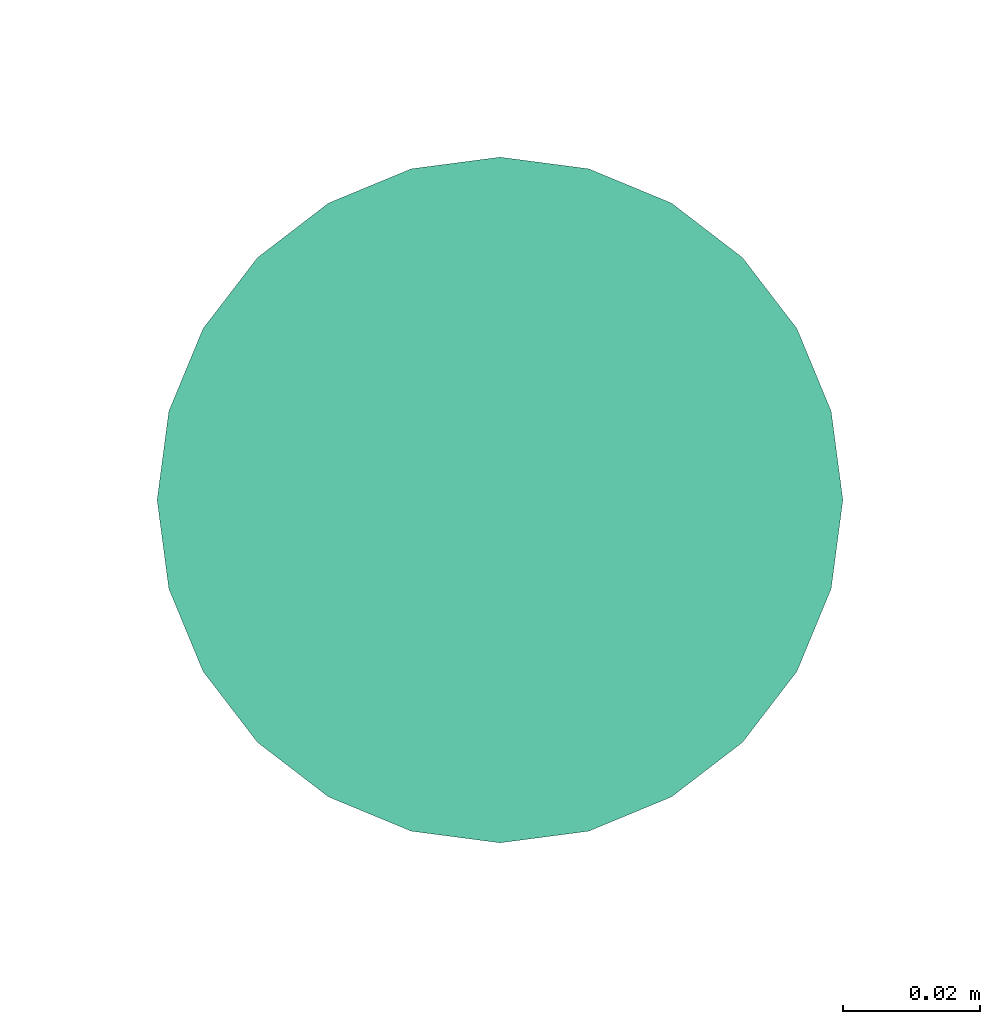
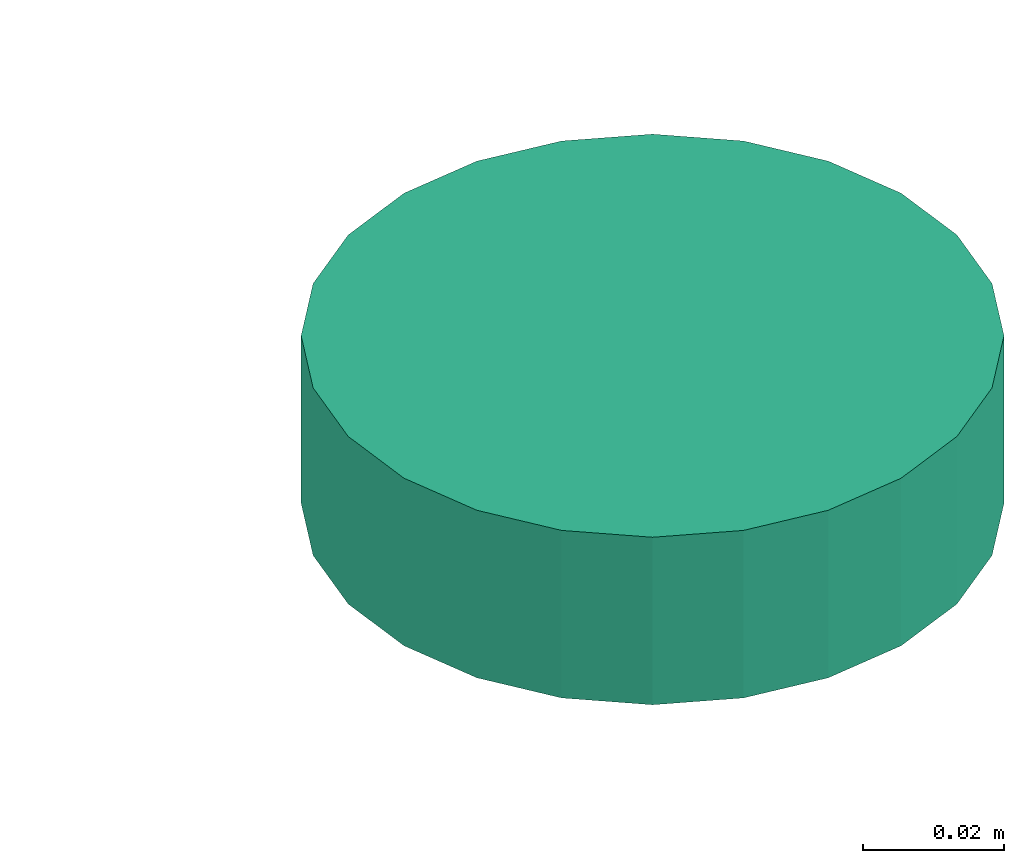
# One storey, part 6 of 7: 1 distribution control element.
"""IFC2X3 building model written with IfcOpenShell, lengths in millimetres."""

from ifc_helpers import new_model, entity, si_unit, converted_unit, derived_unit, direction, frame, origin_with_axes, place, context, subcontext, project, spatial, open_shell, surface_model, source, transform, mapped, type_object, element, save


model = new_model("IFC2X3")

# Units and contexts
model_context = context("Model", 3, precision=0.01, world=frame((0.0, 4.29681676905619e-09, 0.0)), true_north=direction((4.01073788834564e-13, 1.0)))
plan_context = context("Plan", 3, precision=0.01, world=frame((0.0, 4.29681676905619e-09, 0.0)), true_north=direction((4.01073788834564e-13, 1.0)))
body_context = subcontext(model_context, "Body", "Model", "MODEL_VIEW")
ifc_project = project(units=[converted_unit("PLANEANGLEUNIT", "DEGREE", entity("IfcPositiveLengthMeasure", 0.0174532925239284), si_unit("PLANEANGLEUNIT", "RADIAN"), dimensions=[0, 0, 0, 0, 0, 0, 0]), si_unit("AREAUNIT", "SQUARE_METRE"), si_unit("LENGTHUNIT", "METRE", prefix="MILLI"), si_unit("MASSUNIT", "GRAM", prefix="KILO"), si_unit("POWERUNIT", "WATT"), si_unit("PRESSUREUNIT", "PASCAL"), si_unit("FORCEUNIT", "NEWTON", prefix="KILO"), si_unit("ELECTRICVOLTAGEUNIT", "VOLT"), si_unit("ELECTRICCURRENTUNIT", "AMPERE"), si_unit("THERMODYNAMICTEMPERATUREUNIT", "DEGREE_CELSIUS"), si_unit("TIMEUNIT", "SECOND"), si_unit("VOLUMEUNIT", "CUBIC_METRE"), derived_unit("LINEARVELOCITYUNIT", [(si_unit("LENGTHUNIT", "METRE"), 1), (si_unit("TIMEUNIT", "SECOND"), -1)]), derived_unit("VOLUMETRICFLOWRATEUNIT", [(si_unit("VOLUMEUNIT", "CUBIC_METRE"), 1), (si_unit("TIMEUNIT", "SECOND"), -1)]), derived_unit("THERMALTRANSMITTANCEUNIT", [(si_unit("POWERUNIT", "WATT"), 1), (si_unit("THERMODYNAMICTEMPERATUREUNIT", "KELVIN"), -1), (si_unit("AREAUNIT", "SQUARE_METRE"), -1)]), derived_unit("SOUNDPRESSUREUNIT", [(si_unit("PRESSUREUNIT", "PASCAL"), 1)])], contexts=[model_context, plan_context])

# Site, building, storey
site_placement = place(None, frame((0.0, -4.29681676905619e-09, 0.0), z_axis=(0.0, 0.0, 1.0), x_axis=(1.0, 0.0, 0.0)))
site = spatial("IfcSite", under=ifc_project, at=site_placement, Name="ENGM", CompositionType="ELEMENT")
building_placement = place(site_placement, frame((0.0, 4.29681676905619e-09, 0.0), z_axis=(0.0, 0.0, 1.0), x_axis=(1.0, 0.0, 0.0)))
building = spatial("IfcBuilding", under=site, at=building_placement, Name="TH", CompositionType="ELEMENT")
storey_placement = place(building_placement, frame((0.0, 0.0, 210900.0), z_axis=(0.0, 0.0, 1.0), x_axis=(1.0, 0.0, 0.0)))
storey = spatial("IfcBuildingStorey", under=building, at=storey_placement, Name="Nivå F", CompositionType="ELEMENT", Elevation=210900.0)

# Distribution control element
alarm_type = type_object("IfcAlarmType", Name="Optisk Røykdetektor", PredefinedType="NOTDEFINED")
shared_shape = source(origin_with_axes(), body_context, "Body", "SurfaceModel", [
    surface_model("IfcShellBasedSurfaceModel", [(-25.0, 43.30127, -28.9), (-35.35534, 35.35534, -28.9), (-18.0, 31.17691, -28.9), (-25.45584, 25.45584, -28.9), (-9.31749, 34.77333, -28.9), (-12.94095, 48.29629, -28.9), (0.0, 36.0, -28.9), (0.0, 50.0, -28.9), (-34.77333, 9.31749, -28.9), (-43.30127, 25.0, -28.9), (-48.29629, 12.94095, -28.9), (-36.0, 0.0, -28.9), (-50.0, 0.0, -28.9), (-31.17691, 18.0, -28.9), (9.31749, 34.77333, -28.9), (12.94095, 48.29629, -28.9), (18.0, 31.17691, -28.9), (35.35534, 35.35534, -28.9), (25.0, 43.30127, -28.9), (25.45584, 25.45584, -28.9), (31.17691, 18.0, -28.9), (34.77333, 9.31749, -28.9), (43.30127, 25.0, -28.9), (48.29629, 12.94095, -28.9), (36.0, 0.0, -28.9), (50.0, 0.0, -28.9), (-34.77333, -9.31749, -28.9), (-48.29629, -12.94095, -28.9), (-31.17691, -18.0, -28.9), (-43.30127, -25.0, -28.9), (-25.45584, -25.45584, -28.9), (-35.35534, -35.35534, -28.9), (-18.0, -31.17691, -28.9), (-25.0, -43.30127, -28.9), (-9.31749, -34.77333, -28.9), (-12.94095, -48.29629, -28.9), (0.0, -36.0, -28.9), (0.0, -50.0, -28.9), (43.30127, -25.0, -28.9), (31.17691, -18.0, -28.9), (35.35534, -35.35534, -28.9), (34.77333, -9.31749, -28.9), (48.29629, -12.94095, -28.9), (25.45584, -25.45584, -28.9), (9.31749, -34.77333, -28.9), (12.94095, -48.29629, -28.9), (18.0, -31.17691, -28.9), (25.0, -43.30127, -28.9), (-25.0, -43.30127, -29.1), (-35.35534, -35.35534, -29.1), (-18.0, -31.17691, -29.1), (-25.45584, -25.45584, -29.1), (-9.31749, -34.77333, -29.1), (-12.94095, -48.29629, -29.1), (0.0, -36.0, -29.1), (0.0, -50.0, -29.1), (-34.77333, -9.31749, -29.1), (-43.30127, -25.0, -29.1), (-48.29629, -12.94095, -29.1), (-36.0, 0.0, -29.1), (-50.0, 0.0, -29.1), (-31.17691, -18.0, -29.1), (9.31749, -34.77333, -29.1), (12.94095, -48.29629, -29.1), (18.0, -31.17691, -29.1), (35.35534, -35.35534, -29.1), (25.0, -43.30127, -29.1), (25.45584, -25.45584, -29.1), (31.17691, -18.0, -29.1), (34.77333, -9.31749, -29.1), (43.30127, -25.0, -29.1), (48.29629, -12.94095, -29.1), (36.0, 0.0, -29.1), (50.0, 0.0, -29.1), (-34.77333, 9.31749, -29.1), (-48.29629, 12.94095, -29.1), (-31.17691, 18.0, -29.1), (-43.30127, 25.0, -29.1), (-25.45584, 25.45584, -29.1), (-35.35534, 35.35534, -29.1), (-18.0, 31.17691, -29.1), (-25.0, 43.30127, -29.1), (-9.31749, 34.77333, -29.1), (-12.94095, 48.29629, -29.1), (0.0, 36.0, -29.1), (0.0, 50.0, -29.1), (43.30127, 25.0, -29.1), (31.17691, 18.0, -29.1), (35.35534, 35.35534, -29.1), (34.77333, 9.31749, -29.1), (48.29629, 12.94095, -29.1), (25.45584, 25.45584, -29.1), (9.31749, 34.77333, -29.1), (12.94095, 48.29629, -29.1), (18.0, 31.17691, -29.1), (25.0, 43.30127, -29.1), (6.47048, -24.14815, -44.9), (12.5, -21.65064, -44.9), (17.67767, -17.67767, -44.9), (24.14815, -6.47048, -44.9), (-24.14815, -6.47048, -44.9), (21.65064, -12.5, -44.9), (-21.65064, 12.5, -44.9), (0.0, -25.0, -44.9), (-12.5, -21.65064, -44.9), (-6.47048, -24.14815, -44.9), (-17.67767, -17.67767, -44.9), (-21.65064, -12.5, -44.9), (25.0, 0.0, -44.9), (24.14815, 6.47048, -44.9), (21.65064, 12.5, -44.9), (17.67767, 17.67767, -44.9), (12.5, 21.65064, -44.9), (6.47048, 24.14815, -44.9), (0.0, 25.0, -44.9), (-25.0, 0.0, -44.9), (-24.14815, 6.47048, -44.9), (-12.5, 21.65064, -44.9), (-17.67767, 17.67767, -44.9), (-6.47048, 24.14815, -44.9), (0.0, 25.0, -45.1), (6.47048, 24.14815, -45.1), (12.5, 21.65064, -45.1), (-21.65064, 12.5, -45.1), (17.67767, 17.67767, -45.1), (21.65064, 12.5, -45.1), (24.14815, 6.47048, -45.1), (-12.5, 21.65064, -45.1), (-17.67767, 17.67767, -45.1), (-6.47048, 24.14815, -45.1), (-25.0, 0.0, -45.1), (-24.14815, 6.47048, -45.1), (-24.14815, -6.47048, -45.1), (24.14815, -6.47048, -45.1), (6.47048, -24.14815, -45.1), (21.65064, -12.5, -45.1), (17.67767, -17.67767, -45.1), (12.5, -21.65064, -45.1), (-12.5, -21.65064, -45.1), (-17.67767, -17.67767, -45.1), (-21.65064, -12.5, -45.1), (0.0, -25.0, -45.1), (-6.47048, -24.14815, -45.1), (25.0, 0.0, -45.1), (-1.46739, 34.60682, -29.0), (0.0, 34.8, -29.0), (0.0, 35.0, -29.0), (-34.60682, 1.46739, -29.0), (-35.0, 0.0, -29.0), (-34.8, 0.0, -29.0), (-17.5, 30.31089, -29.0), (-18.5742, 29.23669, -29.0), (-17.4, 30.13768, -29.0), (-24.60732, -24.60732, -29.0), (-18.5742, -29.23669, -29.0), (-29.23669, -18.5742, -29.0), (34.8, 0.0, -29.0), (34.60682, -1.46739, -29.0), (35.0, 0.0, -29.0), (17.4, 30.13768, -29.0), (17.5, 30.31089, -29.0), (16.03261, 30.70407, -29.0), (30.13768, 17.4, -29.0), (30.31089, 17.5, -29.0), (29.23669, 18.5742, -29.0), (34.60682, 1.46739, -29.0), (33.61422, -9.0069, -29.0), (30.70407, -16.03261, -29.0), (-33.61422, -9.0069, -29.0), (-30.70407, -16.03261, -29.0), (-34.60682, -1.46739, -29.0), (-30.13768, -17.4, -29.0), (-30.31089, -17.5, -29.0), (-17.5, -30.31089, -29.0), (-17.4, -30.13768, -29.0), (-1.46739, -34.60682, -29.0), (0.0, -35.0, -29.0), (0.0, -34.8, -29.0), (-16.03261, -30.70407, -29.0), (-9.0069, -33.61422, -29.0), (1.46739, -34.60682, -29.0), (30.13768, -17.4, -29.0), (29.23669, -18.5742, -29.0), (30.31089, -17.5, -29.0), (24.60732, -24.60732, -29.0), (18.5742, -29.23669, -29.0), (9.0069, -33.61422, -29.0), (16.03261, -30.70407, -29.0), (-30.13768, 17.4, -29.0), (-30.31089, 17.5, -29.0), (-30.70407, 16.03261, -29.0), (17.4, -30.13768, -29.0), (17.5, -30.31089, -29.0), (-33.61422, 9.0069, -29.0), (-29.23669, 18.5742, -29.0), (-24.60732, 24.60732, -29.0), (-16.03261, 30.70407, -29.0), (-9.0069, 33.61422, -29.0), (1.46739, 34.60682, -29.0), (9.0069, 33.61422, -29.0), (18.5742, 29.23669, -29.0), (24.60732, 24.60732, -29.0), (30.70407, 16.03261, -29.0), (33.61422, 9.0069, -29.0), (23.00389, 18.55381, -38.25), (14.9, 25.80756, -38.25), (21.07178, 21.07178, -38.25), (29.66376, 1.03484, -38.25), (30.0, 0.0, -38.25), (29.8, 0.0, -38.25), (24.27051, 17.63356, -38.25), (24.68215, 16.36666, -38.25), (10.52665, 27.61906, -38.25), (28.78459, 7.71281, -38.25), (-10.52665, 27.61906, -38.25), (-23.00389, 18.55381, -38.25), (-14.9, 25.80756, -38.25), (8.32335, 28.5317, -38.25), (0.0, 29.8, -38.25), (7.71281, 28.78459, -38.25), (-8.32335, 28.5317, -38.25), (-24.68215, 16.36666, -38.25), (-28.78459, 7.71281, -38.25), (-25.80756, 14.9, -38.25), (-9.27051, 28.5317, -38.25), (-29.66376, 1.03484, -38.25), (-29.8, 0.0, -38.25), (-30.0, 0.0, -38.25), (-28.78459, -7.71281, -38.25), (-24.68215, -16.36666, -38.25), (-25.80756, -14.9, -38.25), (29.66376, -1.03484, -38.25), (-7.71281, 28.78459, -38.25), (25.80756, 14.9, -38.25), (14.9, -25.80756, -38.25), (10.52665, -27.61906, -38.25), (23.00389, -18.55381, -38.25), (28.78459, -7.71281, -38.25), (24.68215, -16.36666, -38.25), (0.0, -29.8, -38.25), (-7.71281, -28.78459, -38.25), (-8.32335, -28.5317, -38.25), (8.32335, -28.5317, -38.25), (9.27051, 28.5317, -38.25), (-29.66376, -1.03484, -38.25), (21.07178, -21.07178, -38.25), (-23.00389, -18.55381, -38.25), (-24.27051, -17.63356, -38.25), (-9.27051, -28.5317, -38.25), (-10.52665, -27.61906, -38.25), (-21.07178, -21.07178, -38.25), (-14.9, -25.80756, -38.25), (9.27051, -28.5317, -38.25), (7.71281, -28.78459, -38.25), (24.27051, -17.63356, -38.25), (25.80756, -14.9, -38.25), (-21.07178, 21.07178, -38.25), (-24.27051, 17.63356, -38.25), (33.28589, -6.39713, -29.0), (27.13526, -8.81678, -38.25), (-16.77051, -23.08263, -38.25), (-23.90544, -23.90544, -29.0), (-27.13526, -8.81678, -38.25), (-33.28589, -6.39713, -29.0), (16.77051, -23.08263, -38.25), (8.75, -32.65544, -29.0), (0.0, -28.5317, -38.25), (23.90544, -23.90544, -29.0), (-8.75, -32.65544, -29.0), (-33.28589, 6.39713, -29.0), (-27.13526, 8.81678, -38.25), (16.77051, 23.08263, -38.25), (23.90544, 23.90544, -29.0), (27.13526, 8.81678, -38.25), (33.28589, 6.39713, -29.0), (-16.77051, 23.08263, -38.25), (-8.75, 32.65544, -29.0), (0.0, 28.5317, -38.25), (-23.90544, 23.90544, -29.0), (8.75, 32.65544, -29.0), (12.4, 21.47743, -45.0), (17.53625, 17.53625, -45.0), (19.07577, 15.5299, -45.0), (20.22543, 14.69463, -45.0), (20.59905, 13.54472, -45.0), (24.66376, 1.03484, -45.0), (25.0, 0.0, -45.0), (24.8, 0.0, -45.0), (8.88673, 22.93267, -45.0), (23.95496, 6.41871, -45.0), (-8.88673, 22.93267, -45.0), (-19.07577, 15.5299, -45.0), (-12.4, 21.47743, -45.0), (6.84976, 23.77641, -45.0), (0.0, 24.8, -45.0), (6.41871, 23.95496, -45.0), (-7.72542, 23.77641, -45.0), (-6.84976, 23.77641, -45.0), (-21.47743, 12.4, -45.0), (-20.59905, 13.54472, -45.0), (-23.95496, 6.41871, -45.0), (-25.0, 0.0, -45.0), (-24.66376, 1.03484, -45.0), (-24.8, 0.0, -45.0), (-23.95496, -6.41871, -45.0), (-20.59905, -13.54472, -45.0), (-21.47743, -12.4, -45.0), (-6.41871, 23.95496, -45.0), (24.66376, -1.03484, -45.0), (21.47743, 12.4, -45.0), (12.4, -21.47743, -45.0), (8.88673, -22.93267, -45.0), (19.07577, -15.5299, -45.0), (23.95496, -6.41871, -45.0), (20.59905, -13.54472, -45.0), (0.0, -24.8, -45.0), (-6.41871, -23.95496, -45.0), (-6.84976, -23.77641, -45.0), (7.72542, -23.77641, -45.0), (6.84976, -23.77641, -45.0), (7.72542, 23.77641, -45.0), (-24.66376, -1.03484, -45.0), (17.53625, -17.53625, -45.0), (-20.22543, -14.69463, -45.0), (-19.07577, -15.5299, -45.0), (-8.88673, -22.93267, -45.0), (-7.72542, -23.77641, -45.0), (-17.53625, -17.53625, -45.0), (-12.4, -21.47743, -45.0), (6.41871, -23.95496, -45.0), (20.22543, -14.69463, -45.0), (21.47743, -12.4, -45.0), (-17.53625, 17.53625, -45.0), (-20.22543, 14.69463, -45.0), (-22.61271, -7.34732, -45.0), (-13.97542, -19.23552, -45.0), (0.0, -23.77641, -45.0), (21.83768, -9.73262, -45.0), (13.97542, -19.23552, -45.0), (23.41884, -4.86631, -45.0), (22.61271, 7.34732, -45.0), (13.97542, 19.23552, -45.0), (0.0, 23.77641, -45.0), (-21.83768, 9.73262, -45.0), (-13.97542, 19.23552, -45.0), (-23.41884, 4.86631, -45.0), (12.94095, -48.29629, 0.0), (25.0, -43.30127, 0.0), (35.35534, -35.35534, 0.0), (48.29629, -12.94095, 0.0), (-48.29629, -12.94095, 0.0), (43.30127, -25.0, 0.0), (-43.30127, 25.0, 0.0), (0.0, -50.0, 0.0), (-25.0, -43.30127, 0.0), (-12.94095, -48.29629, 0.0), (-35.35534, -35.35534, 0.0), (-43.30127, -25.0, 0.0), (50.0, 0.0, 0.0), (48.29629, 12.94095, 0.0), (43.30127, 25.0, 0.0), (35.35534, 35.35534, 0.0), (25.0, 43.30127, 0.0), (12.94095, 48.29629, 0.0), (0.0, 50.0, 0.0), (-50.0, 0.0, 0.0), (-48.29629, 12.94095, 0.0), (-25.0, 43.30127, 0.0), (-35.35534, 35.35534, 0.0), (-12.94095, 48.29629, 0.0), (0.0, 50.0, -29.0), (12.94095, 48.29629, -29.0), (25.0, 43.30127, -29.0), (-43.30127, 25.0, -29.0), (35.35534, 35.35534, -29.0), (43.30127, 25.0, -29.0), (48.29629, 12.94095, -29.0), (-25.0, 43.30127, -29.0), (-35.35534, 35.35534, -29.0), (-12.94095, 48.29629, -29.0), (-50.0, 0.0, -29.0), (-48.29629, 12.94095, -29.0), (-48.29629, -12.94095, -29.0), (48.29629, -12.94095, -29.0), (12.94095, -48.29629, -29.0), (43.30127, -25.0, -29.0), (35.35534, -35.35534, -29.0), (25.0, -43.30127, -29.0), (-25.0, -43.30127, -29.0), (-35.35534, -35.35534, -29.0), (-43.30127, -25.0, -29.0), (0.0, -50.0, -29.0), (-12.94095, -48.29629, -29.0), (50.0, 0.0, -29.0)], [open_shell([[[0, 1, 2]], [[2, 1, 3]], [[0, 2, 4]], [[5, 4, 6]], [[4, 5, 0]], [[5, 6, 7]], [[8, 9, 10]], [[11, 10, 12]], [[8, 10, 11]], [[13, 3, 9]], [[8, 13, 9]], [[9, 3, 1]], [[7, 14, 15]], [[14, 7, 6]], [[15, 14, 16]], [[17, 18, 19]], [[16, 18, 15]], [[19, 18, 16]], [[20, 21, 22]], [[20, 22, 17]], [[21, 23, 22]], [[23, 21, 24]], [[23, 24, 25]], [[20, 17, 19]], [[26, 12, 27]], [[28, 27, 29]], [[28, 26, 27]], [[30, 28, 29]], [[29, 31, 30]], [[32, 31, 33]], [[31, 32, 30]], [[32, 33, 34]], [[34, 35, 36]], [[35, 34, 33]], [[36, 35, 37]], [[38, 39, 40]], [[41, 39, 42]], [[41, 42, 25]], [[42, 39, 38]], [[39, 43, 40]], [[25, 24, 41]], [[44, 37, 45]], [[37, 44, 36]], [[44, 45, 46]], [[47, 40, 43]], [[47, 46, 45]], [[47, 43, 46]], [[26, 11, 12]], [[48, 49, 50]], [[50, 49, 51]], [[48, 50, 52]], [[53, 52, 54]], [[52, 53, 48]], [[53, 54, 55]], [[56, 57, 58]], [[59, 58, 60]], [[56, 58, 59]], [[61, 51, 57]], [[56, 61, 57]], [[57, 51, 49]], [[55, 62, 63]], [[62, 55, 54]], [[63, 62, 64]], [[65, 66, 67]], [[64, 66, 63]], [[67, 66, 64]], [[68, 69, 70]], [[68, 70, 65]], [[69, 71, 70]], [[71, 69, 72]], [[71, 72, 73]], [[68, 65, 67]], [[74, 60, 75]], [[76, 75, 77]], [[76, 74, 75]], [[78, 76, 77]], [[77, 79, 78]], [[80, 79, 81]], [[79, 80, 78]], [[80, 81, 82]], [[82, 83, 84]], [[83, 82, 81]], [[84, 83, 85]], [[86, 87, 88]], [[89, 87, 90]], [[89, 90, 73]], [[90, 87, 86]], [[87, 91, 88]], [[73, 72, 89]], [[92, 85, 93]], [[85, 92, 84]], [[92, 93, 94]], [[95, 88, 91]], [[95, 94, 93]], [[95, 91, 94]], [[74, 59, 60]], [[11, 59, 8]], [[8, 74, 13]], [[2, 3, 78]], [[76, 3, 13]], [[4, 2, 80]], [[74, 76, 13]], [[8, 59, 74]], [[84, 6, 82]], [[4, 80, 82]], [[80, 2, 78]], [[3, 76, 78]], [[4, 82, 6]], [[14, 92, 16]], [[16, 94, 19]], [[21, 20, 87]], [[91, 20, 19]], [[24, 21, 89]], [[92, 94, 16]], [[14, 84, 92]], [[21, 87, 89]], [[87, 20, 91]], [[19, 94, 91]], [[24, 89, 72]], [[6, 84, 14]], [[24, 72, 41]], [[41, 69, 39]], [[46, 43, 67]], [[68, 43, 39]], [[44, 46, 64]], [[69, 68, 39]], [[41, 72, 69]], [[54, 36, 62]], [[44, 64, 62]], [[64, 46, 67]], [[43, 68, 67]], [[44, 62, 36]], [[34, 52, 32]], [[32, 50, 30]], [[26, 28, 61]], [[51, 28, 30]], [[11, 26, 56]], [[52, 50, 32]], [[34, 54, 52]], [[26, 61, 56]], [[61, 28, 51]], [[30, 50, 51]], [[11, 56, 59]], [[36, 54, 34]], [[58, 27, 60]], [[57, 29, 58]], [[33, 49, 48]], [[57, 49, 31]], [[35, 48, 53]], [[58, 29, 27]], [[27, 12, 60]], [[35, 33, 48]], [[31, 49, 33]], [[31, 29, 57]], [[37, 35, 53]], [[53, 55, 37]], [[63, 45, 55]], [[66, 47, 63]], [[38, 65, 70]], [[66, 65, 40]], [[42, 70, 71]], [[66, 40, 47]], [[47, 45, 63]], [[25, 42, 71]], [[38, 70, 42]], [[38, 40, 65]], [[73, 25, 71]], [[55, 45, 37]], [[90, 23, 73]], [[86, 22, 90]], [[18, 88, 95]], [[86, 88, 17]], [[15, 95, 93]], [[90, 22, 23]], [[23, 25, 73]], [[15, 18, 95]], [[17, 88, 18]], [[17, 22, 86]], [[7, 15, 93]], [[93, 85, 7]], [[83, 5, 85]], [[81, 0, 83]], [[9, 79, 77]], [[81, 79, 1]], [[10, 77, 75]], [[81, 1, 0]], [[0, 5, 83]], [[12, 10, 75]], [[9, 77, 10]], [[9, 1, 79]], [[60, 12, 75]], [[85, 5, 7]], [[96, 97, 98]], [[96, 98, 99]], [[96, 99, 100]], [[99, 98, 101]], [[102, 100, 99]], [[103, 104, 105]], [[103, 96, 104]], [[106, 100, 107]], [[106, 104, 96]], [[100, 106, 96]], [[99, 108, 102]], [[109, 110, 111]], [[109, 111, 112]], [[112, 113, 114]], [[109, 112, 102]], [[102, 112, 114]], [[115, 102, 116]], [[100, 102, 115]], [[102, 117, 118]], [[117, 102, 119]], [[114, 119, 102]], [[102, 108, 109]], [[120, 121, 122]], [[123, 120, 122]], [[124, 125, 126]], [[124, 126, 122]], [[123, 122, 126]], [[127, 123, 128]], [[123, 127, 129]], [[123, 130, 131]], [[123, 129, 120]], [[123, 132, 130]], [[123, 126, 133]], [[132, 123, 133]], [[134, 133, 135]], [[136, 137, 134]], [[136, 134, 135]], [[138, 133, 134]], [[132, 139, 140]], [[132, 133, 139]], [[138, 141, 142]], [[139, 133, 138]], [[134, 141, 138]], [[133, 126, 143]], [[132, 100, 130]], [[140, 107, 132]], [[104, 139, 138]], [[140, 139, 106]], [[105, 138, 142]], [[132, 107, 100]], [[100, 115, 130]], [[105, 104, 138]], [[106, 139, 104]], [[106, 107, 140]], [[103, 105, 142]], [[142, 141, 103]], [[134, 96, 141]], [[137, 97, 134]], [[101, 136, 135]], [[137, 136, 98]], [[99, 135, 133]], [[137, 98, 97]], [[97, 96, 134]], [[108, 99, 133]], [[101, 135, 99]], [[101, 98, 136]], [[143, 108, 133]], [[141, 96, 103]], [[126, 109, 143]], [[125, 110, 126]], [[112, 124, 122]], [[125, 124, 111]], [[113, 122, 121]], [[126, 110, 109]], [[109, 108, 143]], [[113, 112, 122]], [[111, 124, 112]], [[111, 110, 125]], [[114, 113, 121]], [[121, 120, 114]], [[129, 119, 120]], [[127, 117, 129]], [[102, 128, 123]], [[127, 128, 118]], [[116, 123, 131]], [[127, 118, 117]], [[117, 119, 129]], [[115, 116, 131]], [[102, 123, 116]], [[102, 118, 128]], [[130, 115, 131]], [[120, 119, 114]], [[144, 145, 146]], [[147, 148, 149]], [[150, 151, 152]], [[153, 154, 155]], [[156, 157, 158]], [[159, 160, 161]], [[162, 163, 164]], [[156, 158, 165]], [[166, 157, 167]], [[168, 169, 170]], [[170, 149, 148]], [[171, 169, 172]], [[173, 174, 154]], [[175, 176, 177]], [[174, 173, 178]], [[155, 171, 172]], [[179, 175, 178]], [[180, 177, 176]], [[181, 182, 183]], [[181, 183, 167]], [[184, 182, 185]], [[186, 187, 180]], [[188, 189, 190]], [[191, 192, 185]], [[191, 187, 192]], [[193, 147, 190]], [[188, 194, 189]], [[195, 194, 151]], [[152, 196, 150]], [[197, 196, 144]], [[145, 198, 146]], [[199, 198, 161]], [[159, 200, 160]], [[201, 200, 164]], [[162, 202, 163]], [[203, 202, 165]], [[204, 205, 206]], [[207, 208, 209]], [[204, 210, 211]], [[205, 204, 212]], [[213, 207, 211]], [[214, 215, 216]], [[217, 218, 219]], [[218, 217, 220]], [[221, 222, 223]], [[220, 214, 224]], [[225, 226, 227]], [[228, 229, 230]], [[209, 208, 231]], [[218, 220, 232]], [[213, 211, 233]], [[234, 235, 236]], [[237, 238, 231]], [[239, 240, 241]], [[241, 242, 239]], [[243, 212, 217]], [[227, 226, 244]], [[234, 236, 245]], [[229, 246, 247]], [[241, 248, 249]], [[250, 246, 251]], [[228, 244, 229]], [[235, 252, 242]], [[239, 242, 253]], [[236, 238, 254]], [[238, 237, 255]], [[251, 246, 249]], [[216, 215, 256]], [[215, 221, 257]], [[222, 221, 225]], [[208, 158, 258]], [[183, 259, 258]], [[260, 261, 247]], [[172, 262, 247]], [[263, 227, 262]], [[192, 252, 264]], [[260, 248, 173]], [[261, 260, 173]], [[252, 265, 266]], [[227, 263, 148]], [[172, 263, 262]], [[258, 259, 208]], [[254, 267, 264]], [[268, 173, 248]], [[252, 192, 265]], [[192, 264, 267]], [[267, 254, 183]], [[259, 183, 254]], [[268, 266, 176]], [[265, 176, 266]], [[248, 266, 268]], [[172, 247, 261]], [[227, 148, 269]], [[189, 270, 269]], [[271, 272, 210]], [[163, 273, 210]], [[274, 208, 273]], [[150, 224, 275]], [[271, 243, 160]], [[272, 271, 160]], [[224, 276, 277]], [[208, 274, 158]], [[163, 274, 273]], [[269, 270, 227]], [[257, 278, 275]], [[279, 160, 243]], [[224, 150, 276]], [[150, 275, 278]], [[278, 257, 189]], [[270, 189, 257]], [[279, 277, 146]], [[276, 146, 277]], [[243, 277, 279]], [[163, 210, 272]], [[171, 230, 228]], [[168, 228, 226]], [[179, 240, 251]], [[174, 251, 250]], [[153, 250, 230]], [[168, 171, 228]], [[226, 149, 168]], [[251, 174, 179]], [[174, 250, 153]], [[230, 171, 153]], [[240, 179, 177]], [[177, 239, 240]], [[184, 245, 234]], [[191, 234, 253]], [[156, 209, 237]], [[166, 237, 255]], [[181, 255, 245]], [[239, 186, 253]], [[186, 191, 253]], [[177, 186, 239]], [[184, 181, 245]], [[191, 184, 234]], [[181, 166, 255]], [[166, 156, 237]], [[162, 233, 213]], [[203, 213, 209]], [[199, 219, 205]], [[159, 205, 206]], [[201, 206, 233]], [[203, 162, 213]], [[209, 156, 203]], [[205, 159, 199]], [[159, 206, 201]], [[233, 162, 201]], [[219, 199, 145]], [[145, 218, 219]], [[195, 256, 216]], [[152, 216, 232]], [[149, 226, 222]], [[193, 222, 223]], [[188, 223, 256]], [[218, 197, 232]], [[197, 152, 232]], [[145, 197, 218]], [[195, 188, 256]], [[152, 195, 216]], [[188, 193, 223]], [[193, 149, 222]], [[215, 216, 256]], [[221, 222, 225]], [[225, 227, 226]], [[257, 221, 215]], [[216, 215, 214]], [[212, 204, 205]], [[220, 218, 232]], [[218, 220, 217]], [[217, 212, 243]], [[233, 211, 213]], [[208, 207, 209]], [[237, 238, 255]], [[252, 235, 242]], [[218, 217, 219]], [[227, 244, 226]], [[222, 221, 223]], [[228, 229, 244]], [[239, 253, 242]], [[246, 251, 249]], [[249, 248, 241]], [[231, 238, 237]], [[208, 209, 231]], [[251, 246, 250]], [[254, 238, 236]], [[236, 234, 245]], [[214, 220, 224]], [[242, 241, 239]], [[239, 241, 240]], [[246, 229, 247]], [[230, 229, 228]], [[234, 236, 235]], [[205, 204, 206]], [[204, 211, 210]], [[213, 211, 207]], [[280, 281, 282]], [[282, 283, 284]], [[285, 286, 287]], [[280, 282, 288]], [[289, 285, 284]], [[290, 291, 292]], [[293, 294, 295]], [[290, 296, 297]], [[294, 293, 297]], [[298, 299, 300]], [[301, 302, 303]], [[304, 305, 306]], [[294, 297, 307]], [[308, 287, 286]], [[289, 284, 309]], [[310, 311, 312]], [[313, 314, 308]], [[315, 316, 317]], [[311, 318, 319]], [[293, 320, 288]], [[301, 303, 321]], [[310, 312, 322]], [[323, 305, 324]], [[325, 317, 326]], [[327, 324, 328]], [[304, 321, 305]], [[317, 319, 315]], [[315, 319, 329]], [[312, 314, 330]], [[331, 314, 313]], [[328, 324, 325]], [[292, 291, 332]], [[291, 299, 333]], [[300, 299, 302]], [[262, 301, 334]], [[334, 323, 247]], [[248, 335, 326]], [[301, 262, 227]], [[334, 247, 262]], [[260, 323, 335]], [[266, 248, 326]], [[336, 252, 266]], [[252, 336, 318]], [[323, 260, 247]], [[248, 260, 335]], [[254, 337, 259]], [[318, 264, 252]], [[338, 254, 264]], [[339, 286, 208]], [[264, 318, 338]], [[259, 339, 208]], [[338, 330, 254]], [[266, 326, 336]], [[259, 337, 339]], [[337, 254, 330]], [[273, 286, 340]], [[340, 283, 210]], [[243, 341, 320]], [[286, 273, 208]], [[340, 210, 273]], [[271, 283, 341]], [[277, 243, 320]], [[342, 224, 277]], [[224, 342, 296]], [[283, 271, 210]], [[243, 271, 341]], [[257, 343, 270]], [[296, 275, 224]], [[344, 257, 275]], [[345, 301, 227]], [[275, 296, 344]], [[270, 345, 227]], [[344, 333, 257]], [[277, 320, 342]], [[270, 343, 345]], [[343, 257, 333]], [[230, 306, 304]], [[228, 304, 303]], [[240, 316, 328]], [[251, 328, 327]], [[250, 327, 306]], [[228, 230, 304]], [[303, 226, 228]], [[328, 251, 240]], [[251, 327, 250]], [[306, 230, 250]], [[316, 240, 239]], [[239, 315, 316]], [[245, 322, 310]], [[234, 310, 329]], [[209, 287, 313]], [[237, 313, 331]], [[255, 331, 322]], [[315, 253, 329]], [[253, 234, 329]], [[239, 253, 315]], [[255, 322, 245]], [[234, 245, 310]], [[331, 255, 237]], [[237, 209, 313]], [[233, 309, 289]], [[213, 289, 287]], [[219, 295, 280]], [[205, 280, 281]], [[206, 281, 309]], [[213, 233, 289]], [[287, 209, 213]], [[280, 205, 219]], [[205, 281, 206]], [[309, 233, 206]], [[295, 219, 218]], [[218, 294, 295]], [[256, 332, 292]], [[216, 292, 307]], [[226, 303, 300]], [[222, 300, 298]], [[223, 298, 332]], [[294, 232, 307]], [[232, 216, 307]], [[218, 232, 294]], [[223, 332, 256]], [[216, 256, 292]], [[298, 223, 222]], [[222, 226, 300]], [[346, 347, 348]], [[346, 348, 349]], [[346, 349, 350]], [[349, 348, 351]], [[352, 350, 349]], [[353, 354, 355]], [[353, 346, 354]], [[356, 350, 357]], [[356, 354, 346]], [[350, 356, 346]], [[349, 358, 352]], [[359, 360, 361]], [[359, 361, 362]], [[362, 363, 364]], [[359, 362, 352]], [[352, 362, 364]], [[365, 352, 366]], [[350, 352, 365]], [[352, 367, 368]], [[367, 352, 369]], [[364, 369, 352]], [[352, 358, 359]], [[370, 371, 372]], [[373, 370, 372]], [[374, 375, 376]], [[374, 376, 372]], [[373, 372, 376]], [[377, 373, 378]], [[373, 377, 379]], [[373, 380, 381]], [[373, 379, 370]], [[373, 382, 380]], [[373, 376, 383]], [[382, 373, 383]], [[384, 383, 385]], [[386, 387, 384]], [[386, 384, 385]], [[388, 383, 384]], [[382, 389, 390]], [[382, 383, 389]], [[388, 391, 392]], [[389, 383, 388]], [[384, 391, 388]], [[383, 376, 393]], [[382, 350, 380]], [[390, 357, 382]], [[354, 389, 388]], [[390, 389, 356]], [[355, 388, 392]], [[382, 357, 350]], [[350, 365, 380]], [[355, 354, 388]], [[356, 389, 354]], [[356, 357, 390]], [[353, 355, 392]], [[392, 391, 353]], [[384, 346, 391]], [[387, 347, 384]], [[351, 386, 385]], [[387, 386, 348]], [[349, 385, 383]], [[387, 348, 347]], [[347, 346, 384]], [[358, 349, 383]], [[351, 385, 349]], [[351, 348, 386]], [[393, 358, 383]], [[391, 346, 353]], [[376, 359, 393]], [[375, 360, 376]], [[362, 374, 372]], [[375, 374, 361]], [[363, 372, 371]], [[376, 360, 359]], [[359, 358, 393]], [[363, 362, 372]], [[361, 374, 362]], [[361, 360, 375]], [[364, 363, 371]], [[371, 370, 364]], [[369, 370, 379]], [[367, 379, 377]], [[352, 373, 381]], [[366, 381, 380]], [[379, 367, 369]], [[367, 377, 378]], [[367, 378, 368]], [[368, 378, 352]], [[352, 378, 373]], [[352, 381, 366]], [[380, 365, 366]], [[370, 369, 364]]])]),
])
distribution_control_element_placement = place(storey_placement, frame((908332.51152, 482253.91011, 2000.0), z_axis=(0.0, 0.0, 1.0), x_axis=(1.0, 0.0, 0.0)))
element("IfcDistributionControlElement", 1, at=distribution_control_element_placement, inside=storey, type_object=alarm_type, Name="Optisk Røykdetektor", context=body_context, shape_type="MappedRepresentation", body=[
    mapped(shared_shape, transform((0.0, 0.0, 0.0), scale=1.0)),
])

save(model, "model.ifc")
